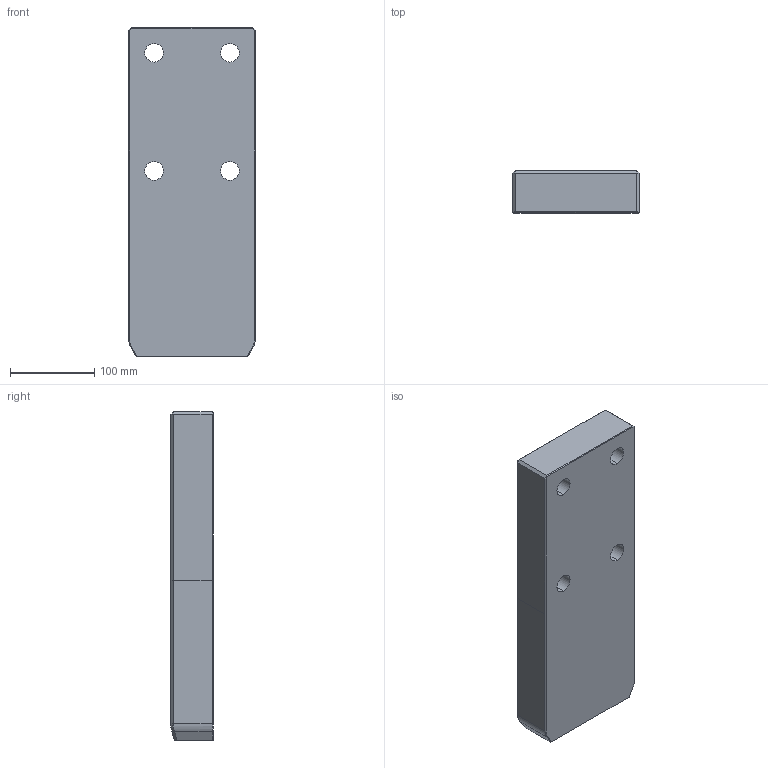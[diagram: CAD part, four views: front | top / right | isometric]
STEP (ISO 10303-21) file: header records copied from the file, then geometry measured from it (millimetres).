
FILE_DESCRIPTION((''),'2;1');
FILE_NAME('','2010-09-08T12:58:41+09:00',('misumi'),(''),'M/STEP i/f 1R2-14','CADmeister v5.1','');
FILE_SCHEMA(('AUTOMOTIVE_DESIGN'));
Length unit declared in the file: millimetre
Products named in the file (1): OGP150-390
Bounding box: 150 x 50 x 390 mm (x, y, z)
Volume: 2829536.1 mm3; surface area: 179068.5 mm2
Topology: 1 solids, 1 shells, 53 faces, 128 edges, 78 vertices
Faces by surface type: plane 32, cylinder 13, bspline 6, cone 2
Entity records: 1903 total; most frequent: CARTESIAN_POINT 598, ORIENTED_EDGE 248, DIRECTION 234, EDGE_CURVE 124, LINE 82, VECTOR 82, AXIS2_PLACEMENT_3D 76, VERTEX_POINT 74
